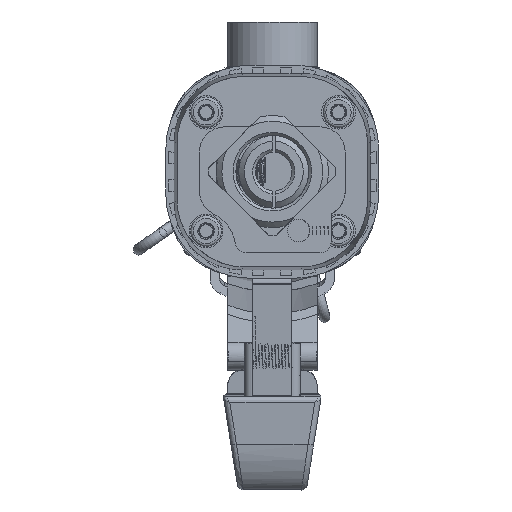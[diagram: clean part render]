
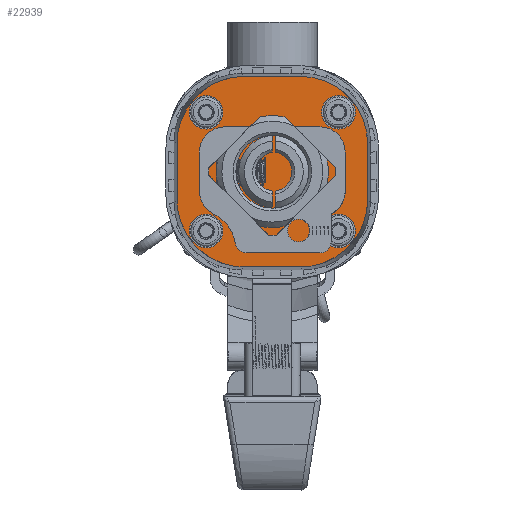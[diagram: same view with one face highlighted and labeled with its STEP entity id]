
A CAD part, left-side view. The second image highlights one B-rep face of the part: STEP entity #22939.
In plain terms, the highlighted planar face has unit normal (-1, 0, 0).
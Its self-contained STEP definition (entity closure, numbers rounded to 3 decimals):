
#155=FACE_BOUND('',#6319,.T.);
#156=FACE_BOUND('',#6320,.T.);
#157=FACE_BOUND('',#6321,.T.);
#158=FACE_BOUND('',#6322,.T.);
#890=LINE('',#33050,#2428);
#895=LINE('',#33064,#2433);
#897=LINE('',#33071,#2435);
#900=LINE('',#33079,#2438);
#2428=VECTOR('',#26996,10.);
#2433=VECTOR('',#27011,10.);
#2435=VECTOR('',#27019,10.);
#2438=VECTOR('',#27028,10.);
#3731=PLANE('',#24412);
#5021=FACE_OUTER_BOUND('',#6318,.T.);
#6318=EDGE_LOOP('',(#16558,#16559,#16560,#16561,#16562,#16563,#16564,#16565));
#6319=EDGE_LOOP('',(#16566));
#6320=EDGE_LOOP('',(#16567));
#6321=EDGE_LOOP('',(#16568));
#6322=EDGE_LOOP('',(#16569));
#7653=CIRCLE('',#24394,3.);
#7654=CIRCLE('',#24396,3.);
#7655=CIRCLE('',#24399,12.);
#7656=CIRCLE('',#24402,12.);
#7657=CIRCLE('',#24405,3.);
#7658=CIRCLE('',#24407,3.);
#7659=CIRCLE('',#24409,12.);
#7660=CIRCLE('',#24411,12.);
#9830=VERTEX_POINT('',#33046);
#9831=VERTEX_POINT('',#33048);
#9832=VERTEX_POINT('',#33052);
#9833=VERTEX_POINT('',#33056);
#9834=VERTEX_POINT('',#33060);
#9835=VERTEX_POINT('',#33062);
#9836=VERTEX_POINT('',#33068);
#9837=VERTEX_POINT('',#33070);
#9838=VERTEX_POINT('',#33076);
#9839=VERTEX_POINT('',#33078);
#9840=VERTEX_POINT('',#33082);
#9841=VERTEX_POINT('',#33086);
#12374=EDGE_CURVE('',#9830,#9831,#890,.T.);
#12375=EDGE_CURVE('',#9832,#9832,#7653,.T.);
#12377=EDGE_CURVE('',#9833,#9833,#7654,.T.);
#12381=EDGE_CURVE('',#9834,#9835,#895,.T.);
#12382=EDGE_CURVE('',#9834,#9831,#7655,.T.);
#12384=EDGE_CURVE('',#9836,#9837,#897,.T.);
#12386=EDGE_CURVE('',#9830,#9836,#7656,.T.);
#12388=EDGE_CURVE('',#9838,#9839,#900,.T.);
#12390=EDGE_CURVE('',#9840,#9840,#7657,.T.);
#12392=EDGE_CURVE('',#9841,#9841,#7658,.T.);
#12394=EDGE_CURVE('',#9835,#9839,#7659,.T.);
#12395=EDGE_CURVE('',#9838,#9837,#7660,.T.);
#16558=ORIENTED_EDGE('',*,*,#12386,.F.);
#16559=ORIENTED_EDGE('',*,*,#12374,.T.);
#16560=ORIENTED_EDGE('',*,*,#12382,.F.);
#16561=ORIENTED_EDGE('',*,*,#12381,.T.);
#16562=ORIENTED_EDGE('',*,*,#12394,.T.);
#16563=ORIENTED_EDGE('',*,*,#12388,.F.);
#16564=ORIENTED_EDGE('',*,*,#12395,.T.);
#16565=ORIENTED_EDGE('',*,*,#12384,.F.);
#16566=ORIENTED_EDGE('',*,*,#12390,.F.);
#16567=ORIENTED_EDGE('',*,*,#12392,.F.);
#16568=ORIENTED_EDGE('',*,*,#12377,.T.);
#16569=ORIENTED_EDGE('',*,*,#12375,.T.);
#22939=ADVANCED_FACE('',(#5021,#155,#156,#157,#158),#3731,.T.);
#24394=AXIS2_PLACEMENT_3D('',#33053,#26999,#27000);
#24396=AXIS2_PLACEMENT_3D('',#33057,#27004,#27005);
#24399=AXIS2_PLACEMENT_3D('',#33066,#27014,#27015);
#24402=AXIS2_PLACEMENT_3D('',#33074,#27023,#27024);
#24405=AXIS2_PLACEMENT_3D('',#33083,#27032,#27033);
#24407=AXIS2_PLACEMENT_3D('',#33087,#27037,#27038);
#24409=AXIS2_PLACEMENT_3D('',#33090,#27042,#27043);
#24411=AXIS2_PLACEMENT_3D('',#33092,#27046,#27047);
#24412=AXIS2_PLACEMENT_3D('',#33093,#27048,#27049);
#26996=DIRECTION('',(0.,1.,0.));
#26999=DIRECTION('center_axis',(1.,0.,0.));
#27000=DIRECTION('ref_axis',(0.,-1.,0.));
#27004=DIRECTION('center_axis',(1.,0.,0.));
#27005=DIRECTION('ref_axis',(0.,-1.,0.));
#27011=DIRECTION('',(0.,0.,-1.));
#27014=DIRECTION('center_axis',(1.,0.,0.));
#27015=DIRECTION('ref_axis',(0.,0.707,0.707));
#27019=DIRECTION('',(0.,0.,-1.));
#27023=DIRECTION('center_axis',(1.,0.,0.));
#27024=DIRECTION('ref_axis',(0.,-0.707,0.707));
#27028=DIRECTION('',(0.,1.,0.));
#27032=DIRECTION('center_axis',(-1.,0.,0.));
#27033=DIRECTION('ref_axis',(0.,-1.,0.));
#27037=DIRECTION('center_axis',(-1.,0.,0.));
#27038=DIRECTION('ref_axis',(0.,-1.,0.));
#27042=DIRECTION('center_axis',(-1.,0.,0.));
#27043=DIRECTION('ref_axis',(0.,0.707,-0.707));
#27046=DIRECTION('center_axis',(-1.,0.,0.));
#27047=DIRECTION('ref_axis',(0.,-0.707,-0.707));
#27048=DIRECTION('center_axis',(-1.,0.,0.));
#27049=DIRECTION('ref_axis',(0.,-1.,0.));
#33046=CARTESIAN_POINT('',(-47.,-5.,17.));
#33048=CARTESIAN_POINT('',(-47.,5.,17.));
#33050=CARTESIAN_POINT('',(-47.,-20.,17.));
#33052=CARTESIAN_POINT('',(-47.,-8.806,10.591));
#33053=CARTESIAN_POINT('Origin',(-47.,-11.806,10.591));
#33056=CARTESIAN_POINT('',(-47.,14.806,10.591));
#33057=CARTESIAN_POINT('Origin',(-47.,11.806,10.591));
#33060=CARTESIAN_POINT('',(-47.,17.,5.));
#33062=CARTESIAN_POINT('',(-47.,17.,-5.));
#33064=CARTESIAN_POINT('',(-47.,17.,1.5));
#33066=CARTESIAN_POINT('Origin',(-47.,5.,5.));
#33068=CARTESIAN_POINT('',(-47.,-17.,5.));
#33070=CARTESIAN_POINT('',(-47.,-17.,-5.));
#33071=CARTESIAN_POINT('',(-47.,-17.,1.5));
#33074=CARTESIAN_POINT('Origin',(-47.,-5.,5.));
#33076=CARTESIAN_POINT('',(-47.,-5.,-17.));
#33078=CARTESIAN_POINT('',(-47.,5.,-17.));
#33079=CARTESIAN_POINT('',(-47.,-20.,-17.));
#33082=CARTESIAN_POINT('',(-47.,-8.806,-10.591));
#33083=CARTESIAN_POINT('Origin',(-47.,-11.806,-10.591));
#33086=CARTESIAN_POINT('',(-47.,14.806,-10.591));
#33087=CARTESIAN_POINT('Origin',(-47.,11.806,-10.591));
#33090=CARTESIAN_POINT('Origin',(-47.,5.,-5.));
#33092=CARTESIAN_POINT('Origin',(-47.,-5.,-5.));
#33093=CARTESIAN_POINT('Origin',(-47.,20.,-1.5));
